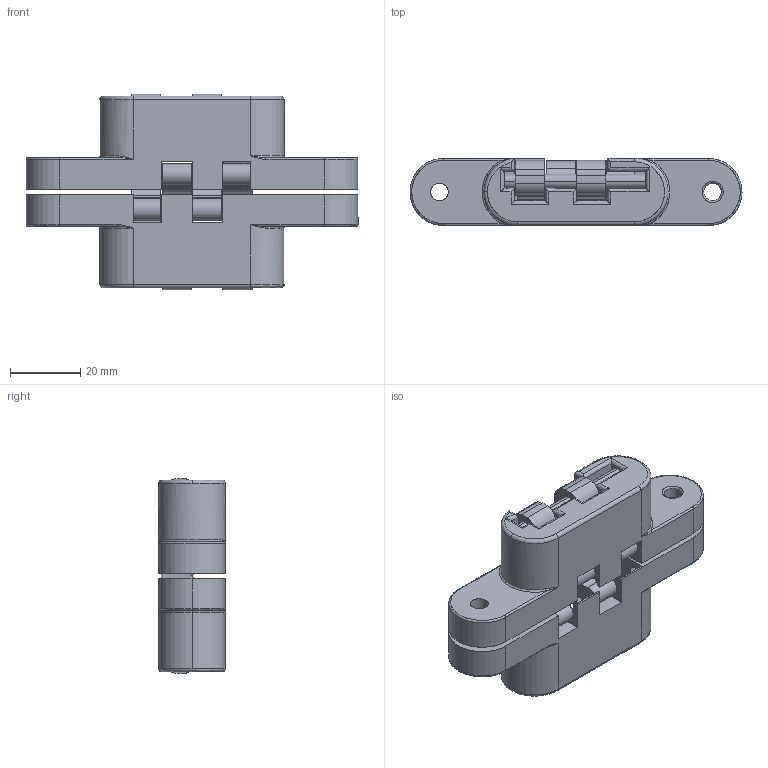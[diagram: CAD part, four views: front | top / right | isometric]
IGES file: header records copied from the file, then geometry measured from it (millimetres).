
Start section: SolidWorks IGES file using analytic representation for surfaces
Bounding box: 94.3 x 19 x 55.52 mm (x, y, z)
Surface area: 23164.7 mm2 (no closed solid volume)
Topology: 0 solids, 0 shells, 298 faces, 3574 edges, 3570 vertices
Faces by surface type: bspline 156, revolution 142
